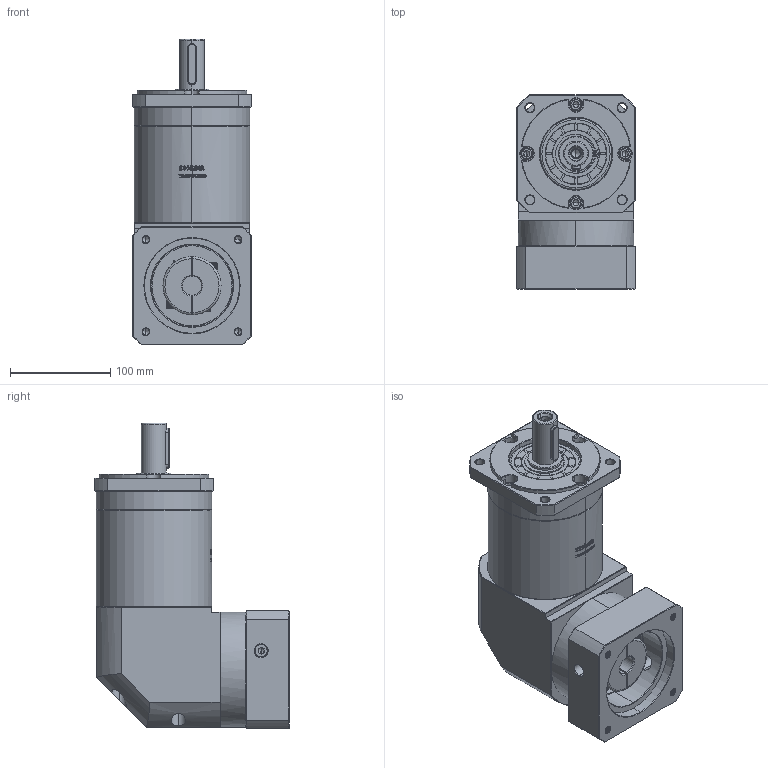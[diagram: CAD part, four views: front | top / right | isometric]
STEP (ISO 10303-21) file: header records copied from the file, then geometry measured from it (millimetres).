
FILE_DESCRIPTION (( 'STEP AP214' ), '1' );
FILE_NAME ('ZFR120A-D25-L3-19-95-130-M8.step', '2023-03-08T08:21:59', ( '' ), ( '' ), 'SwSTEP 2.0', 'SolidWorks 2016', '' );
FILE_SCHEMA (( 'AUTOMOTIVE_DESIGN' ));
Length unit declared in the file: millimetre
Products named in the file (1): ZFR120A-D25-L3-19-95-130-M8
Bounding box: 118 x 193.9 x 305 mm (x, y, z)
Volume: 3489895.7 mm3; surface area: 264546.6 mm2
Topology: 6 solids, 6 shells, 2869 faces, 7677 edges, 4953 vertices
Faces by surface type: plane 1484, bspline 606, cylinder 434, cone 337, torus 8
Entity records: 157812 total; most frequent: CARTESIAN_POINT 60441, ORIENTED_EDGE 15294, DIRECTION 11124, EDGE_CURVE 7647, VERTEX_POINT 4953, LINE 4748, VECTOR 4748, AXIS2_PLACEMENT_3D 3188
